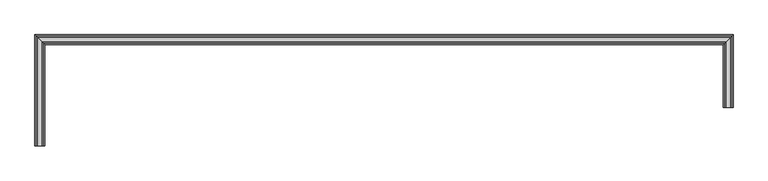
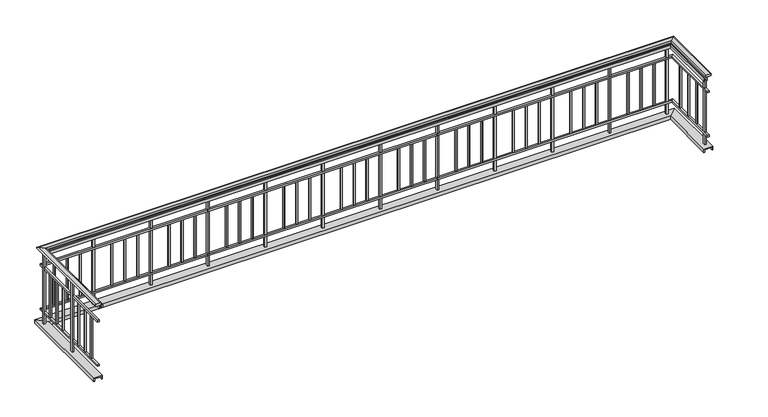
"""IFC4 building model written with IfcOpenShell, lengths in millimetres: railing geometry, Deco Type 4."""

from ifc_helpers import new_model, si_unit, frame, origin, place, context, project, spatial, polyline, circle_curve, ellipse_curve, outline, extrude, faceted_brep, source, transform, mapped, element, save
from ifc_brep_helpers import plane_surface, cylinder_surface, advanced_brep


def railing_9f6f884b(model_context):
    return source(origin(), model_context, "Body", "SolidModel", [
        advanced_brep(
        [(-12541.4849555, -19255.2012132, 4197.35), (-12541.4849555, -19255.2012132, 4175.1248415), (-12541.4849555, -19255.2012132, 4165.6), (-12478.1352029, -19255.2012132, 4165.6), (-12478.1352029, -19255.2012132, 4175.061629), (-12478.1352029, -19255.2012132, 4197.35), (-3924.116824, -18772.6832184, 4197.35), (-3987.4665766, -18772.6832184, 4197.35), (-3987.4665766, -18772.6832184, 4175.061629), (-3987.4665766, -18772.6832184, 4165.6), (-3924.116824, -18772.6832184, 4165.6), (-3924.116824, -18772.6832184, 4175.1248415), (-12541.4849555, -17898.0389606, 4197.35), (-12541.4849555, -17898.0389606, 4175.1248415), (-12541.4849555, -17898.0389606, 4165.6), (-12478.1352029, -17961.3887132, 4165.6), (-12478.1352029, -17961.3887132, 4175.061629), (-12478.1352029, -17961.3887132, 4197.35), (-3924.116824, -17898.0389606, 4197.35), (-3924.116824, -17898.0389606, 4175.1248415), (-3924.116824, -17898.0389606, 4165.6), (-3987.4665766, -17961.3887132, 4165.6), (-3987.4665766, -17961.3887132, 4175.061629), (-3987.4665766, -17961.3887132, 4197.35)],
        [
            (0, 1, circle_curve(frame((-12541.4849555, -19255.2012132, 4186.2374207), z_axis=(0.0, -1.0, 0.0), x_axis=(1.0, 0.0, 0.0)), 11.1125793)),
            (1, 2),
            (2, 3),
            (3, 4),
            (4, 5, circle_curve(frame((-12478.1352029, -19255.2012132, 4186.2058145), z_axis=(0.0, -1.0, 0.0), x_axis=(1.0, 0.0, 0.0)), 11.1441855)),
            (5, 0),
            (6, 7),
            (7, 8, circle_curve(frame((-3987.4665766, -18772.6832184, 4186.2058145), z_axis=(0.0, -1.0, 0.0), x_axis=(-1.0, 0.0, 0.0)), 11.1441855)),
            (8, 9),
            (9, 10),
            (10, 11),
            (11, 6, circle_curve(frame((-3924.116824, -18772.6832184, 4186.2374207), z_axis=(0.0, -1.0, 0.0), x_axis=(-1.0, 0.0, 0.0)), 11.1125793)),
            (0, 12),
            (12, 13, ellipse_curve(frame((-12541.4849555, -17898.0389606, 4186.2374207), z_axis=(-0.7071067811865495, -0.7071067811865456, 0.0), x_axis=(0.7071067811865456, -0.7071067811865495, 0.0)), 15.7155603, 11.1125793)),
            (13, 1),
            (13, 14),
            (14, 2),
            (14, 15),
            (15, 3),
            (15, 16),
            (16, 4),
            (16, 17, ellipse_curve(frame((-12478.1352029, -17961.3887132, 4186.2058145), z_axis=(-0.7071067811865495, -0.7071067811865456, 0.0), x_axis=(0.7071067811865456, -0.7071067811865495, 0.0)), 15.7602583, 11.1441855)),
            (17, 5),
            (17, 12),
            (12, 18),
            (18, 19, ellipse_curve(frame((-3924.116824, -17898.0389606, 4186.2374207), z_axis=(-0.7071067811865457, 0.7071067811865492, 0.0), x_axis=(-0.7071067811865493, -0.7071067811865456, 0.0)), 15.7155603, 11.1125793)),
            (19, 13),
            (19, 20),
            (20, 14),
            (20, 21),
            (21, 15),
            (21, 22),
            (22, 16),
            (22, 23, ellipse_curve(frame((-3987.4665766, -17961.3887132, 4186.2058145), z_axis=(-0.7071067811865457, 0.7071067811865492, 0.0), x_axis=(-0.7071067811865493, -0.7071067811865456, 0.0)), 15.7602583, 11.1441855)),
            (23, 17),
            (23, 18),
            (18, 6),
            (11, 19),
            (10, 20),
            (9, 21),
            (8, 22),
            (7, 23),
        ],
        [
            plane_surface(frame((-12509.8852029, -19255.2012132, 4165.6), z_axis=(0.0, -1.0, 0.0), x_axis=(0.0, 0.0, 1.0))),
            plane_surface(frame((-3955.7165766, -18772.6832184, 4165.6), z_axis=(0.0, -1.0, 0.0), x_axis=(0.0, 0.0, -1.0))),
            cylinder_surface(frame((-12541.4849555, -19255.2012132, 4186.2374207), z_axis=(0.0, -1.0, 0.0), x_axis=(1.0, 0.0, 0.0)), 11.1125793),
            plane_surface(frame((-12541.4849555, -19255.2012132, 4175.1248415), z_axis=(-1.0, 0.0, 0.0), x_axis=(0.0, 1.0, 0.0))),
            plane_surface(frame((-12541.4849555, -19255.2012132, 4165.6), z_axis=(0.0, 0.0, -1.0), x_axis=(0.0, 1.0, 0.0))),
            plane_surface(frame((-12478.1352029, -19255.2012132, 4165.6), z_axis=(1.0, 0.0, 0.0), x_axis=(0.0, 1.0, 0.0))),
            cylinder_surface(frame((-12478.1352029, -19255.2012132, 4186.2058145), z_axis=(0.0, -1.0, 0.0), x_axis=(1.0, 0.0, 0.0)), 11.1441855),
            plane_surface(frame((-12478.1352029, -19255.2012132, 4197.35), z_axis=(0.0, 0.0, 1.0), x_axis=(0.0, 1.0, 0.0))),
            cylinder_surface(frame((-12509.8852029, -17898.0389606, 4186.2374207), z_axis=(-1.0, 0.0, 0.0), x_axis=(0.0, -1.0, 0.0)), 11.1125793),
            plane_surface(frame((-12541.4849555, -17898.0389606, 4175.1248415), z_axis=(0.0, 1.0, 0.0), x_axis=(1.0, 0.0, 0.0))),
            plane_surface(frame((-12541.4849555, -17898.0389606, 4165.6), z_axis=(0.0, 0.0, -1.0), x_axis=(1.0, 0.0, 0.0))),
            plane_surface(frame((-12478.1352029, -17961.3887132, 4165.6), z_axis=(0.0, -1.0, 0.0), x_axis=(1.0, 0.0, 0.0))),
            cylinder_surface(frame((-12509.8852029, -17961.3887132, 4186.2058145), z_axis=(-1.0, 0.0, 0.0), x_axis=(0.0, -1.0, 0.0)), 11.1441855),
            plane_surface(frame((-12478.1352029, -17961.3887132, 4197.35), z_axis=(0.0, 0.0, 1.0), x_axis=(1.0, 0.0, 0.0))),
            cylinder_surface(frame((-3924.116824, -17929.6387132, 4186.2374207), z_axis=(0.0, 1.0, 0.0), x_axis=(-1.0, 0.0, 0.0)), 11.1125793),
            plane_surface(frame((-3924.116824, -17898.0389606, 4175.1248415), z_axis=(1.0, 0.0, 0.0), x_axis=(0.0, -1.0, 0.0))),
            plane_surface(frame((-3924.116824, -17898.0389606, 4165.6), z_axis=(0.0, 0.0, -1.0), x_axis=(0.0, -1.0, 0.0))),
            plane_surface(frame((-3987.4665766, -17961.3887132, 4165.6), z_axis=(-1.0, 0.0, 0.0), x_axis=(0.0, -1.0, 0.0))),
            cylinder_surface(frame((-3987.4665766, -17929.6387132, 4186.2058145), z_axis=(0.0, 1.0, 0.0), x_axis=(-1.0, 0.0, 0.0)), 11.1441855),
            plane_surface(frame((-3987.4665766, -17961.3887132, 4197.35), z_axis=(0.0, 0.0, 1.0), x_axis=(0.0, -1.0, 0.0))),
        ],
        [
            (0, [[1, 2, 3, 4, 5, 6]]),
            (1, [[7, 8, 9, 10, 11, 12]]),
            (2, [[-1, 13, 14, 15]]),
            (3, [[-2, -15, 16, 17]]),
            (4, [[-3, -17, 18, 19]]),
            (5, [[-4, -19, 20, 21]]),
            (6, [[-5, -21, 22, 23]]),
            (7, [[-6, -23, 24, -13]]),
            (8, [[-14, 25, 26, 27]]),
            (9, [[-16, -27, 28, 29]]),
            (10, [[-18, -29, 30, 31]]),
            (11, [[-20, -31, 32, 33]]),
            (12, [[-22, -33, 34, 35]]),
            (13, [[-24, -35, 36, -25]]),
            (14, [[-26, 37, -12, 38]]),
            (15, [[-28, -38, -11, 39]]),
            (16, [[-30, -39, -10, 40]]),
            (17, [[-32, -40, -9, 41]]),
            (18, [[-34, -41, -8, 42]]),
            (19, [[-36, -42, -7, -37]]),
        ],
    ),
        faceted_brep([(-12484.4100792, -19255.2012132, 4165.6), (-12497.1100792, -19255.2012132, 4165.6), (-12497.1100792, -19255.2012132, 4121.15), (-12484.4100792, -19255.2012132, 4121.15), (-12484.4100792, -17955.1138369, 4165.6), (-12497.1100792, -17942.4138369, 4165.6), (-12497.1100792, -17942.4138369, 4121.15), (-12484.4100792, -17955.1138369, 4121.15), (-3981.1917003, -17955.1138369, 4165.6), (-3968.4917003, -17942.4138369, 4165.6), (-3968.4917003, -17942.4138369, 4121.15), (-3981.1917003, -17955.1138369, 4121.15), (-3981.1917003, -18772.6832184, 4165.6), (-3981.1917003, -18772.6832184, 4121.15), (-3968.4917003, -18772.6832184, 4121.15), (-3968.4917003, -18772.6832184, 4165.6)], [[[0, 1, 2, 3]], [[1, 0, 4, 5]], [[2, 1, 5, 6]], [[3, 2, 6, 7]], [[0, 3, 7, 4]], [[5, 4, 8, 9]], [[6, 5, 9, 10]], [[7, 6, 10, 11]], [[4, 7, 11, 8]], [[12, 13, 14, 15]], [[9, 8, 12, 15]], [[10, 9, 15, 14]], [[11, 10, 14, 13]], [[8, 11, 13, 12]]]),
        faceted_brep([(-12446.3100792, -19255.2012132, 4165.6), (-12459.0100792, -19255.2012132, 4165.6), (-12459.0100792, -19255.2012132, 4121.15), (-12446.3100792, -19255.2012132, 4121.15), (-12446.3100792, -17993.2138369, 4165.6), (-12459.0100792, -17980.5138369, 4165.6), (-12459.0100792, -17980.5138369, 4121.15), (-12446.3100792, -17993.2138369, 4121.15), (-4019.2917003, -17993.2138369, 4165.6), (-4006.5917003, -17980.5138369, 4165.6), (-4006.5917003, -17980.5138369, 4121.15), (-4019.2917003, -17993.2138369, 4121.15), (-4019.2917003, -18772.6832184, 4165.6), (-4019.2917003, -18772.6832184, 4121.15), (-4006.5917003, -18772.6832184, 4121.15), (-4006.5917003, -18772.6832184, 4165.6)], [[[0, 1, 2, 3]], [[1, 0, 4, 5]], [[2, 1, 5, 6]], [[3, 2, 6, 7]], [[0, 3, 7, 4]], [[5, 4, 8, 9]], [[6, 5, 9, 10]], [[7, 6, 10, 11]], [[4, 7, 11, 8]], [[12, 13, 14, 15]], [[9, 8, 12, 15]], [[10, 9, 15, 14]], [[11, 10, 14, 13]], [[8, 11, 13, 12]]]),
        faceted_brep([(-12497.1852029, -19255.2012132, 3962.4), (-12522.5852029, -19255.2012132, 3962.4), (-12522.5852029, -19255.2012132, 3937.0), (-12497.1852029, -19255.2012132, 3937.0), (-12497.1852029, -17942.3387132, 3962.4), (-12522.5852029, -17916.9387132, 3962.4), (-12522.5852029, -17916.9387132, 3937.0), (-12497.1852029, -17942.3387132, 3937.0), (-3968.4165766, -17942.3387132, 3962.4), (-3943.0165766, -17916.9387132, 3962.4), (-3943.0165766, -17916.9387132, 3937.0), (-3968.4165766, -17942.3387132, 3937.0), (-3968.4165766, -18772.6832184, 3962.4), (-3968.4165766, -18772.6832184, 3937.0), (-3943.0165766, -18772.6832184, 3937.0), (-3943.0165766, -18772.6832184, 3962.4)], [[[0, 1, 2, 3]], [[1, 0, 4, 5]], [[2, 1, 5, 6]], [[3, 2, 6, 7]], [[0, 3, 7, 4]], [[5, 4, 8, 9]], [[6, 5, 9, 10]], [[7, 6, 10, 11]], [[4, 7, 11, 8]], [[12, 13, 14, 15]], [[9, 8, 12, 15]], [[10, 9, 15, 14]], [[11, 10, 14, 13]], [[8, 11, 13, 12]]]),
        faceted_brep([(-12497.1852029, -19255.2012132, 3327.4), (-12522.5852029, -19255.2012132, 3327.4), (-12522.5852029, -19255.2012132, 3302.0), (-12497.1852029, -19255.2012132, 3302.0), (-12497.1852029, -17942.3387132, 3327.4), (-12522.5852029, -17916.9387132, 3327.4), (-12522.5852029, -17916.9387132, 3302.0), (-12497.1852029, -17942.3387132, 3302.0), (-3968.4165766, -17942.3387132, 3327.4), (-3943.0165766, -17916.9387132, 3327.4), (-3943.0165766, -17916.9387132, 3302.0), (-3968.4165766, -17942.3387132, 3302.0), (-3968.4165766, -18772.6832184, 3327.4), (-3968.4165766, -18772.6832184, 3302.0), (-3943.0165766, -18772.6832184, 3302.0), (-3943.0165766, -18772.6832184, 3327.4)], [[[0, 1, 2, 3]], [[1, 0, 4, 5]], [[2, 1, 5, 6]], [[3, 2, 6, 7]], [[0, 3, 7, 4]], [[5, 4, 8, 9]], [[6, 5, 9, 10]], [[7, 6, 10, 11]], [[4, 7, 11, 8]], [[12, 13, 14, 15]], [[9, 8, 12, 15]], [[10, 9, 15, 14]], [[11, 10, 14, 13]], [[8, 11, 13, 12]]]),
        faceted_brep([(-12568.5475792, -19255.2012132, 3147.8362864), (-12568.5475792, -19255.2012132, 3098.8), (-12555.8475792, -19255.2012132, 3098.8), (-12555.8475792, -19255.2012132, 3135.1362864), (-12463.7725792, -19255.2012132, 3135.1362864), (-12463.7725792, -19255.2012132, 3098.8), (-12451.0725792, -19255.2012132, 3098.8), (-12451.0725792, -19255.2012132, 3147.8362864), (-12568.5475792, -17870.9763369, 3147.8362864), (-12568.5475792, -17870.9763369, 3098.8), (-12555.8475792, -17883.6763369, 3098.8), (-12555.8475792, -17883.6763369, 3135.1362864), (-12463.7725792, -17975.7513369, 3135.1362864), (-12463.7725792, -17975.7513369, 3098.8), (-12451.0725792, -17988.4513369, 3098.8), (-12451.0725792, -17988.4513369, 3147.8362864), (-3897.0542003, -17870.9763369, 3147.8362864), (-3897.0542003, -17870.9763369, 3098.8), (-3909.7542003, -17883.6763369, 3098.8), (-3909.7542003, -17883.6763369, 3135.1362864), (-4001.8292003, -17975.7513369, 3135.1362864), (-4001.8292003, -17975.7513369, 3098.8), (-4014.5292003, -17988.4513369, 3098.8), (-4014.5292003, -17988.4513369, 3147.8362864), (-3897.0542003, -18772.6832184, 3147.8362864), (-4014.5292003, -18772.6832184, 3147.8362864), (-4014.5292003, -18772.6832184, 3098.8), (-4001.8292003, -18772.6832184, 3098.8), (-4001.8292003, -18772.6832184, 3135.1362864), (-3909.7542003, -18772.6832184, 3135.1362864), (-3909.7542003, -18772.6832184, 3098.8), (-3897.0542003, -18772.6832184, 3098.8)], [[[0, 1, 2, 3, 4, 5, 6, 7]], [[1, 0, 8, 9]], [[2, 1, 9, 10]], [[3, 2, 10, 11]], [[4, 3, 11, 12]], [[5, 4, 12, 13]], [[6, 5, 13, 14]], [[7, 6, 14, 15]], [[0, 7, 15, 8]], [[9, 8, 16, 17]], [[10, 9, 17, 18]], [[11, 10, 18, 19]], [[12, 11, 19, 20]], [[13, 12, 20, 21]], [[14, 13, 21, 22]], [[15, 14, 22, 23]], [[8, 15, 23, 16]], [[24, 25, 26, 27, 28, 29, 30, 31]], [[17, 16, 24, 31]], [[18, 17, 31, 30]], [[19, 18, 30, 29]], [[20, 19, 29, 28]], [[21, 20, 28, 27]], [[22, 21, 27, 26]], [[23, 22, 26, 25]], [[16, 23, 25, 24]]]),
        extrude(outline(polyline([(-3965.6384516, -18678.1294155), (-3940.2384516, -18678.1294155), (-3940.2384516, -18703.5294155), (-3965.6384516, -18703.5294155), (-3965.6384516, -18678.1294155)])), frame((0.0, 0.0, 3147.8362864), z_axis=(0.0, 0.0, 1.0), x_axis=(1.0, 0.0, 0.0)), (0.0, 0.0, 1.0), 1017.7637136),
        extrude(outline(polyline([(-3962.4634516, -18490.3122087), (-3943.4134516, -18490.3122087), (-3943.4134516, -18509.3622087), (-3962.4634516, -18509.3622087), (-3962.4634516, -18490.3122087)])), frame((0.0, 0.0, 3327.4), z_axis=(0.0, 0.0, 1.0), x_axis=(1.0, 0.0, 0.0)), (0.0, 0.0, 1.0), 609.6),
        extrude(outline(polyline([(-3962.4634516, -18299.3200019), (-3943.4134516, -18299.3200019), (-3943.4134516, -18318.3700019), (-3962.4634516, -18318.3700019), (-3962.4634516, -18299.3200019)])), frame((0.0, 0.0, 3327.4), z_axis=(0.0, 0.0, 1.0), x_axis=(1.0, 0.0, 0.0)), (0.0, 0.0, 1.0), 609.6),
        extrude(outline(polyline([(-3962.4634516, -18108.327795), (-3943.4134516, -18108.327795), (-3943.4134516, -18127.377795), (-3962.4634516, -18127.377795), (-3962.4634516, -18108.327795)])), frame((0.0, 0.0, 3327.4), z_axis=(0.0, 0.0, 1.0), x_axis=(1.0, 0.0, 0.0)), (0.0, 0.0, 1.0), 609.6),
        extrude(outline(polyline([(-4040.943949, -17939.5605882), (-4040.943949, -17914.1605882), (-4015.543949, -17914.1605882), (-4015.543949, -17939.5605882), (-4040.943949, -17939.5605882)])), frame((0.0, 0.0, 3147.8362864), z_axis=(0.0, 0.0, 1.0), x_axis=(1.0, 0.0, 0.0)), (0.0, 0.0, 1.0), 1017.7637136),
        extrude(outline(polyline([(-4213.4817764, -17936.3855882), (-4213.4817764, -17917.3355882), (-4194.4317764, -17917.3355882), (-4194.4317764, -17936.3855882), (-4213.4817764, -17936.3855882)])), frame((0.0, 0.0, 3327.4), z_axis=(0.0, 0.0, 1.0), x_axis=(1.0, 0.0, 0.0)), (0.0, 0.0, 1.0), 609.6),
        extrude(outline(polyline([(-4389.1946038, -17936.3855882), (-4389.1946038, -17917.3355882), (-4370.1446038, -17917.3355882), (-4370.1446038, -17936.3855882), (-4389.1946038, -17936.3855882)])), frame((0.0, 0.0, 3327.4), z_axis=(0.0, 0.0, 1.0), x_axis=(1.0, 0.0, 0.0)), (0.0, 0.0, 1.0), 609.6),
        extrude(outline(polyline([(-4564.9074312, -17936.3855882), (-4564.9074312, -17917.3355882), (-4545.8574312, -17917.3355882), (-4545.8574312, -17936.3855882), (-4564.9074312, -17936.3855882)])), frame((0.0, 0.0, 3327.4), z_axis=(0.0, 0.0, 1.0), x_axis=(1.0, 0.0, 0.0)), (0.0, 0.0, 1.0), 609.6),
        extrude(outline(polyline([(-4819.100756, -17939.5605882), (-4819.100756, -17914.1605882), (-4793.700756, -17914.1605882), (-4793.700756, -17939.5605882), (-4819.100756, -17939.5605882)])), frame((0.0, 0.0, 3147.8362864), z_axis=(0.0, 0.0, 1.0), x_axis=(1.0, 0.0, 0.0)), (0.0, 0.0, 1.0), 1017.7637136),
        extrude(outline(polyline([(-4991.6385833, -17936.3855882), (-4991.6385833, -17917.3355882), (-4972.5885833, -17917.3355882), (-4972.5885833, -17936.3855882), (-4991.6385833, -17936.3855882)])), frame((0.0, 0.0, 3327.4), z_axis=(0.0, 0.0, 1.0), x_axis=(1.0, 0.0, 0.0)), (0.0, 0.0, 1.0), 609.6),
        extrude(outline(polyline([(-5167.3514107, -17936.3855882), (-5167.3514107, -17917.3355882), (-5148.3014107, -17917.3355882), (-5148.3014107, -17936.3855882), (-5167.3514107, -17936.3855882)])), frame((0.0, 0.0, 3327.4), z_axis=(0.0, 0.0, 1.0), x_axis=(1.0, 0.0, 0.0)), (0.0, 0.0, 1.0), 609.6),
        extrude(outline(polyline([(-5343.0642381, -17936.3855882), (-5343.0642381, -17917.3355882), (-5324.0142381, -17917.3355882), (-5324.0142381, -17936.3855882), (-5343.0642381, -17936.3855882)])), frame((0.0, 0.0, 3327.4), z_axis=(0.0, 0.0, 1.0), x_axis=(1.0, 0.0, 0.0)), (0.0, 0.0, 1.0), 609.6),
        extrude(outline(polyline([(-5597.2575629, -17939.5605882), (-5597.2575629, -17914.1605882), (-5571.8575629, -17914.1605882), (-5571.8575629, -17939.5605882), (-5597.2575629, -17939.5605882)])), frame((0.0, 0.0, 3147.8362864), z_axis=(0.0, 0.0, 1.0), x_axis=(1.0, 0.0, 0.0)), (0.0, 0.0, 1.0), 1017.7637136),
        extrude(outline(polyline([(-5769.7953903, -17936.3855882), (-5769.7953903, -17917.3355882), (-5750.7453903, -17917.3355882), (-5750.7453903, -17936.3855882), (-5769.7953903, -17936.3855882)])), frame((0.0, 0.0, 3327.4), z_axis=(0.0, 0.0, 1.0), x_axis=(1.0, 0.0, 0.0)), (0.0, 0.0, 1.0), 609.6),
        extrude(outline(polyline([(-5945.5082177, -17936.3855882), (-5945.5082177, -17917.3355882), (-5926.4582177, -17917.3355882), (-5926.4582177, -17936.3855882), (-5945.5082177, -17936.3855882)])), frame((0.0, 0.0, 3327.4), z_axis=(0.0, 0.0, 1.0), x_axis=(1.0, 0.0, 0.0)), (0.0, 0.0, 1.0), 609.6),
        extrude(outline(polyline([(-6121.221045, -17936.3855882), (-6121.221045, -17917.3355882), (-6102.171045, -17917.3355882), (-6102.171045, -17936.3855882), (-6121.221045, -17936.3855882)])), frame((0.0, 0.0, 3327.4), z_axis=(0.0, 0.0, 1.0), x_axis=(1.0, 0.0, 0.0)), (0.0, 0.0, 1.0), 609.6),
        extrude(outline(polyline([(-6375.4143698, -17939.5605882), (-6375.4143698, -17914.1605882), (-6350.0143698, -17914.1605882), (-6350.0143698, -17939.5605882), (-6375.4143698, -17939.5605882)])), frame((0.0, 0.0, 3147.8362864), z_axis=(0.0, 0.0, 1.0), x_axis=(1.0, 0.0, 0.0)), (0.0, 0.0, 1.0), 1017.7637136),
        extrude(outline(polyline([(-6547.9521972, -17936.3855882), (-6547.9521972, -17917.3355882), (-6528.9021972, -17917.3355882), (-6528.9021972, -17936.3855882), (-6547.9521972, -17936.3855882)])), frame((0.0, 0.0, 3327.4), z_axis=(0.0, 0.0, 1.0), x_axis=(1.0, 0.0, 0.0)), (0.0, 0.0, 1.0), 609.6),
        extrude(outline(polyline([(-6723.6650246, -17936.3855882), (-6723.6650246, -17917.3355882), (-6704.6150246, -17917.3355882), (-6704.6150246, -17936.3855882), (-6723.6650246, -17936.3855882)])), frame((0.0, 0.0, 3327.4), z_axis=(0.0, 0.0, 1.0), x_axis=(1.0, 0.0, 0.0)), (0.0, 0.0, 1.0), 609.6),
        extrude(outline(polyline([(-6899.377852, -17936.3855882), (-6899.377852, -17917.3355882), (-6880.327852, -17917.3355882), (-6880.327852, -17936.3855882), (-6899.377852, -17936.3855882)])), frame((0.0, 0.0, 3327.4), z_axis=(0.0, 0.0, 1.0), x_axis=(1.0, 0.0, 0.0)), (0.0, 0.0, 1.0), 609.6),
        extrude(outline(polyline([(-7153.5711768, -17939.5605882), (-7153.5711768, -17914.1605882), (-7128.1711768, -17914.1605882), (-7128.1711768, -17939.5605882), (-7153.5711768, -17939.5605882)])), frame((0.0, 0.0, 3147.8362864), z_axis=(0.0, 0.0, 1.0), x_axis=(1.0, 0.0, 0.0)), (0.0, 0.0, 1.0), 1017.7637136),
        extrude(outline(polyline([(-7326.1090042, -17936.3855882), (-7326.1090042, -17917.3355882), (-7307.0590042, -17917.3355882), (-7307.0590042, -17936.3855882), (-7326.1090042, -17936.3855882)])), frame((0.0, 0.0, 3327.4), z_axis=(0.0, 0.0, 1.0), x_axis=(1.0, 0.0, 0.0)), (0.0, 0.0, 1.0), 609.6),
        extrude(outline(polyline([(-7501.8218315, -17936.3855882), (-7501.8218315, -17917.3355882), (-7482.7718315, -17917.3355882), (-7482.7718315, -17936.3855882), (-7501.8218315, -17936.3855882)])), frame((0.0, 0.0, 3327.4), z_axis=(0.0, 0.0, 1.0), x_axis=(1.0, 0.0, 0.0)), (0.0, 0.0, 1.0), 609.6),
        extrude(outline(polyline([(-7677.5346589, -17936.3855882), (-7677.5346589, -17917.3355882), (-7658.4846589, -17917.3355882), (-7658.4846589, -17936.3855882), (-7677.5346589, -17936.3855882)])), frame((0.0, 0.0, 3327.4), z_axis=(0.0, 0.0, 1.0), x_axis=(1.0, 0.0, 0.0)), (0.0, 0.0, 1.0), 609.6),
        extrude(outline(polyline([(-7931.7279837, -17939.5605882), (-7931.7279837, -17914.1605882), (-7906.3279837, -17914.1605882), (-7906.3279837, -17939.5605882), (-7931.7279837, -17939.5605882)])), frame((0.0, 0.0, 3147.8362864), z_axis=(0.0, 0.0, 1.0), x_axis=(1.0, 0.0, 0.0)), (0.0, 0.0, 1.0), 1017.7637136),
        extrude(outline(polyline([(-8104.2658111, -17936.3855882), (-8104.2658111, -17917.3355882), (-8085.2158111, -17917.3355882), (-8085.2158111, -17936.3855882), (-8104.2658111, -17936.3855882)])), frame((0.0, 0.0, 3327.4), z_axis=(0.0, 0.0, 1.0), x_axis=(1.0, 0.0, 0.0)), (0.0, 0.0, 1.0), 609.6),
        extrude(outline(polyline([(-8279.9786385, -17936.3855882), (-8279.9786385, -17917.3355882), (-8260.9286385, -17917.3355882), (-8260.9286385, -17936.3855882), (-8279.9786385, -17936.3855882)])), frame((0.0, 0.0, 3327.4), z_axis=(0.0, 0.0, 1.0), x_axis=(1.0, 0.0, 0.0)), (0.0, 0.0, 1.0), 609.6),
        extrude(outline(polyline([(-8455.6914658, -17936.3855882), (-8455.6914658, -17917.3355882), (-8436.6414658, -17917.3355882), (-8436.6414658, -17936.3855882), (-8455.6914658, -17936.3855882)])), frame((0.0, 0.0, 3327.4), z_axis=(0.0, 0.0, 1.0), x_axis=(1.0, 0.0, 0.0)), (0.0, 0.0, 1.0), 609.6),
        extrude(outline(polyline([(-8709.8847907, -17939.5605882), (-8709.8847907, -17914.1605882), (-8684.4847907, -17914.1605882), (-8684.4847907, -17939.5605882), (-8709.8847907, -17939.5605882)])), frame((0.0, 0.0, 3147.8362864), z_axis=(0.0, 0.0, 1.0), x_axis=(1.0, 0.0, 0.0)), (0.0, 0.0, 1.0), 1017.7637136),
        extrude(outline(polyline([(-8882.422618, -17936.3855882), (-8882.422618, -17917.3355882), (-8863.372618, -17917.3355882), (-8863.372618, -17936.3855882), (-8882.422618, -17936.3855882)])), frame((0.0, 0.0, 3327.4), z_axis=(0.0, 0.0, 1.0), x_axis=(1.0, 0.0, 0.0)), (0.0, 0.0, 1.0), 609.6),
        extrude(outline(polyline([(-9058.1354454, -17936.3855882), (-9058.1354454, -17917.3355882), (-9039.0854454, -17917.3355882), (-9039.0854454, -17936.3855882), (-9058.1354454, -17936.3855882)])), frame((0.0, 0.0, 3327.4), z_axis=(0.0, 0.0, 1.0), x_axis=(1.0, 0.0, 0.0)), (0.0, 0.0, 1.0), 609.6),
        extrude(outline(polyline([(-9233.8482728, -17936.3855882), (-9233.8482728, -17917.3355882), (-9214.7982728, -17917.3355882), (-9214.7982728, -17936.3855882), (-9233.8482728, -17936.3855882)])), frame((0.0, 0.0, 3327.4), z_axis=(0.0, 0.0, 1.0), x_axis=(1.0, 0.0, 0.0)), (0.0, 0.0, 1.0), 609.6),
        extrude(outline(polyline([(-9488.0415976, -17939.5605882), (-9488.0415976, -17914.1605882), (-9462.6415976, -17914.1605882), (-9462.6415976, -17939.5605882), (-9488.0415976, -17939.5605882)])), frame((0.0, 0.0, 3147.8362864), z_axis=(0.0, 0.0, 1.0), x_axis=(1.0, 0.0, 0.0)), (0.0, 0.0, 1.0), 1017.7637136),
        extrude(outline(polyline([(-9660.579425, -17936.3855882), (-9660.579425, -17917.3355882), (-9641.529425, -17917.3355882), (-9641.529425, -17936.3855882), (-9660.579425, -17936.3855882)])), frame((0.0, 0.0, 3327.4), z_axis=(0.0, 0.0, 1.0), x_axis=(1.0, 0.0, 0.0)), (0.0, 0.0, 1.0), 609.6),
        extrude(outline(polyline([(-9836.2922523, -17936.3855882), (-9836.2922523, -17917.3355882), (-9817.2422523, -17917.3355882), (-9817.2422523, -17936.3855882), (-9836.2922523, -17936.3855882)])), frame((0.0, 0.0, 3327.4), z_axis=(0.0, 0.0, 1.0), x_axis=(1.0, 0.0, 0.0)), (0.0, 0.0, 1.0), 609.6),
        extrude(outline(polyline([(-10012.0050797, -17936.3855882), (-10012.0050797, -17917.3355882), (-9992.9550797, -17917.3355882), (-9992.9550797, -17936.3855882), (-10012.0050797, -17936.3855882)])), frame((0.0, 0.0, 3327.4), z_axis=(0.0, 0.0, 1.0), x_axis=(1.0, 0.0, 0.0)), (0.0, 0.0, 1.0), 609.6),
        extrude(outline(polyline([(-10266.1984045, -17939.5605882), (-10266.1984045, -17914.1605882), (-10240.7984045, -17914.1605882), (-10240.7984045, -17939.5605882), (-10266.1984045, -17939.5605882)])), frame((0.0, 0.0, 3147.8362864), z_axis=(0.0, 0.0, 1.0), x_axis=(1.0, 0.0, 0.0)), (0.0, 0.0, 1.0), 1017.7637136),
        extrude(outline(polyline([(-10438.7362319, -17936.3855882), (-10438.7362319, -17917.3355882), (-10419.6862319, -17917.3355882), (-10419.6862319, -17936.3855882), (-10438.7362319, -17936.3855882)])), frame((0.0, 0.0, 3327.4), z_axis=(0.0, 0.0, 1.0), x_axis=(1.0, 0.0, 0.0)), (0.0, 0.0, 1.0), 609.6),
        extrude(outline(polyline([(-10614.4490593, -17936.3855882), (-10614.4490593, -17917.3355882), (-10595.3990593, -17917.3355882), (-10595.3990593, -17936.3855882), (-10614.4490593, -17936.3855882)])), frame((0.0, 0.0, 3327.4), z_axis=(0.0, 0.0, 1.0), x_axis=(1.0, 0.0, 0.0)), (0.0, 0.0, 1.0), 609.6),
        extrude(outline(polyline([(-10790.1618866, -17936.3855882), (-10790.1618866, -17917.3355882), (-10771.1118866, -17917.3355882), (-10771.1118866, -17936.3855882), (-10790.1618866, -17936.3855882)])), frame((0.0, 0.0, 3327.4), z_axis=(0.0, 0.0, 1.0), x_axis=(1.0, 0.0, 0.0)), (0.0, 0.0, 1.0), 609.6),
        extrude(outline(polyline([(-11044.3552115, -17939.5605882), (-11044.3552115, -17914.1605882), (-11018.9552115, -17914.1605882), (-11018.9552115, -17939.5605882), (-11044.3552115, -17939.5605882)])), frame((0.0, 0.0, 3147.8362864), z_axis=(0.0, 0.0, 1.0), x_axis=(1.0, 0.0, 0.0)), (0.0, 0.0, 1.0), 1017.7637136),
        extrude(outline(polyline([(-11216.8930388, -17936.3855882), (-11216.8930388, -17917.3355882), (-11197.8430388, -17917.3355882), (-11197.8430388, -17936.3855882), (-11216.8930388, -17936.3855882)])), frame((0.0, 0.0, 3327.4), z_axis=(0.0, 0.0, 1.0), x_axis=(1.0, 0.0, 0.0)), (0.0, 0.0, 1.0), 609.6),
        extrude(outline(polyline([(-11392.6058662, -17936.3855882), (-11392.6058662, -17917.3355882), (-11373.5558662, -17917.3355882), (-11373.5558662, -17936.3855882), (-11392.6058662, -17936.3855882)])), frame((0.0, 0.0, 3327.4), z_axis=(0.0, 0.0, 1.0), x_axis=(1.0, 0.0, 0.0)), (0.0, 0.0, 1.0), 609.6),
        extrude(outline(polyline([(-11568.3186936, -17936.3855882), (-11568.3186936, -17917.3355882), (-11549.2686936, -17917.3355882), (-11549.2686936, -17936.3855882), (-11568.3186936, -17936.3855882)])), frame((0.0, 0.0, 3327.4), z_axis=(0.0, 0.0, 1.0), x_axis=(1.0, 0.0, 0.0)), (0.0, 0.0, 1.0), 609.6),
        extrude(outline(polyline([(-11822.5120184, -17939.5605882), (-11822.5120184, -17914.1605882), (-11797.1120184, -17914.1605882), (-11797.1120184, -17939.5605882), (-11822.5120184, -17939.5605882)])), frame((0.0, 0.0, 3147.8362864), z_axis=(0.0, 0.0, 1.0), x_axis=(1.0, 0.0, 0.0)), (0.0, 0.0, 1.0), 1017.7637136),
        extrude(outline(polyline([(-11995.0498458, -17936.3855882), (-11995.0498458, -17917.3355882), (-11975.9998458, -17917.3355882), (-11975.9998458, -17936.3855882), (-11995.0498458, -17936.3855882)])), frame((0.0, 0.0, 3327.4), z_axis=(0.0, 0.0, 1.0), x_axis=(1.0, 0.0, 0.0)), (0.0, 0.0, 1.0), 609.6),
        extrude(outline(polyline([(-12170.7626731, -17936.3855882), (-12170.7626731, -17917.3355882), (-12151.7126731, -17917.3355882), (-12151.7126731, -17936.3855882), (-12170.7626731, -17936.3855882)])), frame((0.0, 0.0, 3327.4), z_axis=(0.0, 0.0, 1.0), x_axis=(1.0, 0.0, 0.0)), (0.0, 0.0, 1.0), 609.6),
        extrude(outline(polyline([(-12346.4755005, -17936.3855882), (-12346.4755005, -17917.3355882), (-12327.4255005, -17917.3355882), (-12327.4255005, -17936.3855882), (-12346.4755005, -17936.3855882)])), frame((0.0, 0.0, 3327.4), z_axis=(0.0, 0.0, 1.0), x_axis=(1.0, 0.0, 0.0)), (0.0, 0.0, 1.0), 609.6),
        extrude(outline(polyline([(-12499.9633279, -18003.8351346), (-12525.3633279, -18003.8351346), (-12525.3633279, -17978.4351346), (-12499.9633279, -17978.4351346), (-12499.9633279, -18003.8351346)])), frame((0.0, 0.0, 3147.8362864), z_axis=(0.0, 0.0, 1.0), x_axis=(1.0, 0.0, 0.0)), (0.0, 0.0, 1.0), 1017.7637136),
        extrude(outline(polyline([(-12503.1383279, -18150.6340761), (-12522.1883279, -18150.6340761), (-12522.1883279, -18131.5840761), (-12503.1383279, -18131.5840761), (-12503.1383279, -18150.6340761)])), frame((0.0, 0.0, 3327.4), z_axis=(0.0, 0.0, 1.0), x_axis=(1.0, 0.0, 0.0)), (0.0, 0.0, 1.0), 609.6),
        extrude(outline(polyline([(-12503.1383279, -18300.6080176), (-12522.1883279, -18300.6080176), (-12522.1883279, -18281.5580176), (-12503.1383279, -18281.5580176), (-12503.1383279, -18300.6080176)])), frame((0.0, 0.0, 3327.4), z_axis=(0.0, 0.0, 1.0), x_axis=(1.0, 0.0, 0.0)), (0.0, 0.0, 1.0), 609.6),
        extrude(outline(polyline([(-12503.1383279, -18450.5819592), (-12522.1883279, -18450.5819592), (-12522.1883279, -18431.5319592), (-12503.1383279, -18431.5319592), (-12503.1383279, -18450.5819592)])), frame((0.0, 0.0, 3327.4), z_axis=(0.0, 0.0, 1.0), x_axis=(1.0, 0.0, 0.0)), (0.0, 0.0, 1.0), 609.6),
        extrude(outline(polyline([(-12499.9633279, -18668.0054471), (-12525.3633279, -18668.0054471), (-12525.3633279, -18642.6054471), (-12499.9633279, -18642.6054471), (-12499.9633279, -18668.0054471)])), frame((0.0, 0.0, 3147.8362864), z_axis=(0.0, 0.0, 1.0), x_axis=(1.0, 0.0, 0.0)), (0.0, 0.0, 1.0), 1017.7637136),
        extrude(outline(polyline([(-12503.1383279, -18814.8043886), (-12522.1883279, -18814.8043886), (-12522.1883279, -18795.7543886), (-12503.1383279, -18795.7543886), (-12503.1383279, -18814.8043886)])), frame((0.0, 0.0, 3327.4), z_axis=(0.0, 0.0, 1.0), x_axis=(1.0, 0.0, 0.0)), (0.0, 0.0, 1.0), 609.6),
        extrude(outline(polyline([(-12503.1383279, -18964.7783301), (-12522.1883279, -18964.7783301), (-12522.1883279, -18945.7283301), (-12503.1383279, -18945.7283301), (-12503.1383279, -18964.7783301)])), frame((0.0, 0.0, 3327.4), z_axis=(0.0, 0.0, 1.0), x_axis=(1.0, 0.0, 0.0)), (0.0, 0.0, 1.0), 609.6),
        extrude(outline(polyline([(-12503.1383279, -19114.7522717), (-12522.1883279, -19114.7522717), (-12522.1883279, -19095.7022717), (-12503.1383279, -19095.7022717), (-12503.1383279, -19114.7522717)])), frame((0.0, 0.0, 3327.4), z_axis=(0.0, 0.0, 1.0), x_axis=(1.0, 0.0, 0.0)), (0.0, 0.0, 1.0), 609.6),
    ])


if __name__ == "__main__":
    model = new_model("IFC4")
    model_context = context("Model", 3, world=origin())
    ifc_project = project(units=[si_unit("LENGTHUNIT", "METRE", prefix="MILLI")], contexts=[model_context])
    site = spatial("IfcSite", under=ifc_project)
    building = spatial("IfcBuilding", under=site)
    placement = place(None, origin())
    railing_shape = railing_9f6f884b(model_context)
    element("IfcRailing", 1, ObjectType="Deco Type 4", at=placement, inside=building, context=model_context, shape_type="MappedRepresentation", body=[
        mapped(railing_shape, transform((0.0, 0.0, 0.0), x_axis=(1.0, 0.0, 0.0), y_axis=(0.0, 1.0, 0.0), z_axis=(0.0, 0.0, 1.0))),
    ])
    save(model, "model.ifc")
